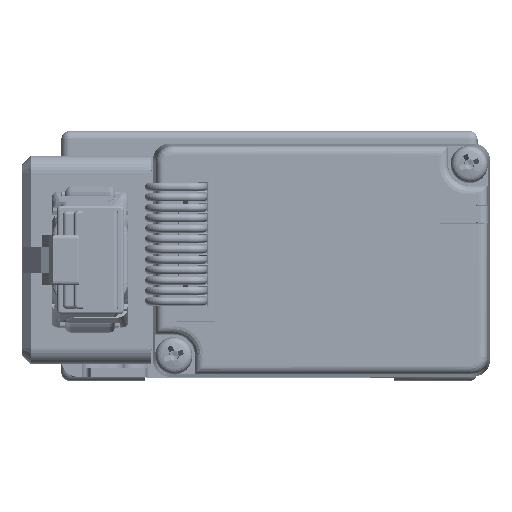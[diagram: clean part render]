
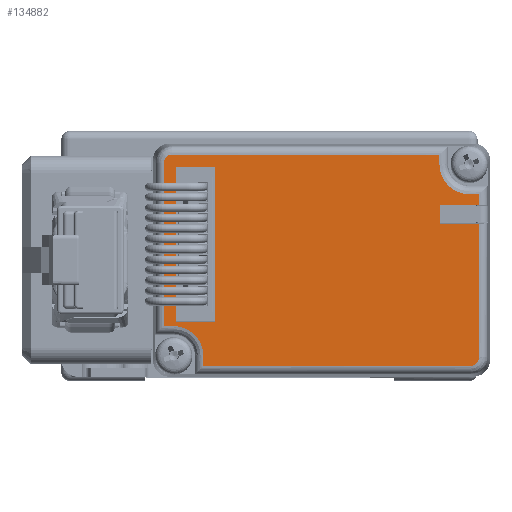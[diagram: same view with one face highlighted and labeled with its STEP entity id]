
A CAD part, front view. The second image highlights one B-rep face of the part: STEP entity #134882.
In plain terms, the highlighted planar face has unit normal (0, -1, 0) as drawn and (1, 0, 0) by its records, which use the part's own axes.
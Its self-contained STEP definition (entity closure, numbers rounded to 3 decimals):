
#1083=(
BOUNDED_CURVE()
B_SPLINE_CURVE(3,(#261114,#261115,#261116,#261117),.UNSPECIFIED.,.F.,.F.)
B_SPLINE_CURVE_WITH_KNOTS((4,4),(2.357,3.927),
 .UNSPECIFIED.)
CURVE()
GEOMETRIC_REPRESENTATION_ITEM()
RATIONAL_B_SPLINE_CURVE((1.,0.805,0.805,1.))
REPRESENTATION_ITEM('')
);
#1084=(
BOUNDED_CURVE()
B_SPLINE_CURVE(3,(#261223,#261224,#261225,#261226),.UNSPECIFIED.,.F.,.F.)
B_SPLINE_CURVE_WITH_KNOTS((4,4),(2.357,3.927),
 .UNSPECIFIED.)
CURVE()
GEOMETRIC_REPRESENTATION_ITEM()
RATIONAL_B_SPLINE_CURVE((1.,0.805,0.805,1.))
REPRESENTATION_ITEM('')
);
#3385=CIRCLE('',#174513,1.);
#3390=CIRCLE('',#174524,1.);
#3398=CIRCLE('',#174588,1.);
#28418=ORIENTED_EDGE('',*,*,#56889,.F.);
#28419=ORIENTED_EDGE('',*,*,#56886,.F.);
#28420=ORIENTED_EDGE('',*,*,#56883,.F.);
#28421=ORIENTED_EDGE('',*,*,#56880,.F.);
#28422=ORIENTED_EDGE('',*,*,#56738,.T.);
#28423=ORIENTED_EDGE('',*,*,#56735,.T.);
#28424=ORIENTED_EDGE('',*,*,#56867,.F.);
#28425=ORIENTED_EDGE('',*,*,#56877,.F.);
#28426=ORIENTED_EDGE('',*,*,#56873,.F.);
#28427=ORIENTED_EDGE('',*,*,#56772,.T.);
#28428=ORIENTED_EDGE('',*,*,#56769,.T.);
#28429=ORIENTED_EDGE('',*,*,#56766,.T.);
#28430=ORIENTED_EDGE('',*,*,#56763,.T.);
#28431=ORIENTED_EDGE('',*,*,#56760,.T.);
#28432=ORIENTED_EDGE('',*,*,#56936,.T.);
#28433=ORIENTED_EDGE('',*,*,#56756,.T.);
#28434=ORIENTED_EDGE('',*,*,#56753,.T.);
#28435=ORIENTED_EDGE('',*,*,#56750,.T.);
#28436=ORIENTED_EDGE('',*,*,#56747,.T.);
#28437=ORIENTED_EDGE('',*,*,#56744,.T.);
#28438=ORIENTED_EDGE('',*,*,#56741,.T.);
#56735=EDGE_CURVE('',#72775,#72778,#87549,.T.);
#56738=EDGE_CURVE('',#72779,#72775,#3385,.T.);
#56741=EDGE_CURVE('',#72781,#72779,#87551,.T.);
#56744=EDGE_CURVE('',#72783,#72781,#87553,.T.);
#56747=EDGE_CURVE('',#72785,#72783,#1083,.T.);
#56750=EDGE_CURVE('',#72787,#72785,#87555,.T.);
#56753=EDGE_CURVE('',#72789,#72787,#87557,.T.);
#56756=EDGE_CURVE('',#72792,#72789,#3390,.T.);
#56760=EDGE_CURVE('',#72793,#72796,#87559,.T.);
#56763=EDGE_CURVE('',#72797,#72793,#87561,.T.);
#56766=EDGE_CURVE('',#72799,#72797,#1084,.T.);
#56769=EDGE_CURVE('',#72801,#72799,#87563,.T.);
#56772=EDGE_CURVE('',#72804,#72801,#87565,.T.);
#56867=EDGE_CURVE('',#72879,#72778,#87637,.T.);
#56873=EDGE_CURVE('',#72804,#72882,#87643,.T.);
#56877=EDGE_CURVE('',#72882,#72879,#87647,.T.);
#56880=EDGE_CURVE('',#72886,#72887,#87650,.T.);
#56883=EDGE_CURVE('',#72887,#72889,#87653,.T.);
#56886=EDGE_CURVE('',#72889,#72891,#87656,.T.);
#56889=EDGE_CURVE('',#72891,#72886,#87659,.T.);
#56936=EDGE_CURVE('',#72796,#72792,#3398,.T.);
#72775=VERTEX_POINT('',#261002);
#72778=VERTEX_POINT('',#261010);
#72779=VERTEX_POINT('',#261049);
#72781=VERTEX_POINT('',#261058);
#72783=VERTEX_POINT('',#261064);
#72785=VERTEX_POINT('',#261105);
#72787=VERTEX_POINT('',#261120);
#72789=VERTEX_POINT('',#261126);
#72792=VERTEX_POINT('',#261156);
#72793=VERTEX_POINT('',#261164);
#72796=VERTEX_POINT('',#261169);
#72797=VERTEX_POINT('',#261173);
#72799=VERTEX_POINT('',#261214);
#72801=VERTEX_POINT('',#261229);
#72804=VERTEX_POINT('',#261239);
#72879=VERTEX_POINT('',#261503);
#72882=VERTEX_POINT('',#261513);
#72886=VERTEX_POINT('',#261525);
#72887=VERTEX_POINT('',#261527);
#72889=VERTEX_POINT('',#261533);
#72891=VERTEX_POINT('',#261539);
#87549=LINE('',#261011,#103251);
#87551=LINE('',#261061,#103253);
#87553=LINE('',#261067,#103255);
#87555=LINE('',#261123,#103257);
#87557=LINE('',#261129,#103259);
#87559=LINE('',#261170,#103261);
#87561=LINE('',#261176,#103263);
#87563=LINE('',#261232,#103265);
#87565=LINE('',#261241,#103267);
#87637=LINE('',#261502,#103339);
#87643=LINE('',#261512,#103345);
#87647=LINE('',#261520,#103349);
#87650=LINE('',#261526,#103352);
#87653=LINE('',#261532,#103355);
#87656=LINE('',#261538,#103358);
#87659=LINE('',#261544,#103361);
#103251=VECTOR('',#197784,1000.);
#103253=VECTOR('',#197794,1000.);
#103255=VECTOR('',#197800,1000.);
#103257=VECTOR('',#197808,1000.);
#103259=VECTOR('',#197814,1000.);
#103261=VECTOR('',#197826,1000.);
#103263=VECTOR('',#197832,1000.);
#103265=VECTOR('',#197840,1000.);
#103267=VECTOR('',#197844,1000.);
#103339=VECTOR('',#197978,1000.);
#103345=VECTOR('',#197986,1000.);
#103349=VECTOR('',#197992,1000.);
#103352=VECTOR('',#197997,1000.);
#103355=VECTOR('',#198002,1000.);
#103358=VECTOR('',#198007,1000.);
#103361=VECTOR('',#198012,1000.);
#114253=EDGE_LOOP('',(#28418,#28419,#28420,#28421));
#114254=EDGE_LOOP('',(#28422,#28423,#28424,#28425,#28426,#28427,#28428,
#28429,#28430,#28431,#28432,#28433,#28434,#28435,#28436,#28437,#28438));
#122109=FACE_BOUND('',#114253,.T.);
#122110=FACE_BOUND('',#114254,.T.);
#128733=PLANE('',#174587);
#134882=ADVANCED_FACE('',(#122109,#122110),#128733,.T.);
#174513=AXIS2_PLACEMENT_3D('',#261055,#197787,#197788);
#174524=AXIS2_PLACEMENT_3D('',#261161,#197817,#197818);
#174587=AXIS2_PLACEMENT_3D('',#261626,#198089,#198090);
#174588=AXIS2_PLACEMENT_3D('',#261627,#198091,#198092);
#197784=DIRECTION('',(0.,0.,1.));
#197787=DIRECTION('',(1.,0.,0.));
#197788=DIRECTION('',(0.,0.,-1.));
#197794=DIRECTION('',(0.,1.,0.));
#197800=DIRECTION('',(0.,0.,-1.));
#197808=DIRECTION('',(0.,1.,0.));
#197814=DIRECTION('',(0.,0.,-1.));
#197817=DIRECTION('',(1.,0.,0.));
#197818=DIRECTION('',(0.,-0.707,0.707));
#197826=DIRECTION('',(0.,-1.,0.));
#197832=DIRECTION('',(0.,0.,1.));
#197840=DIRECTION('',(0.,-1.,0.));
#197844=DIRECTION('',(0.,0.,1.));
#197978=DIRECTION('',(0.,1.,0.));
#197986=DIRECTION('',(0.,-1.,0.));
#197992=DIRECTION('',(0.,0.,-1.));
#197997=DIRECTION('',(0.,0.,-1.));
#198002=DIRECTION('',(0.,1.,0.));
#198007=DIRECTION('',(0.,0.,1.));
#198012=DIRECTION('',(0.,-1.,0.));
#198089=DIRECTION('',(1.,0.,0.));
#198090=DIRECTION('',(0.,0.,-1.));
#198091=DIRECTION('',(1.,0.,0.));
#198092=DIRECTION('',(0.,0.,1.));
#261002=CARTESIAN_POINT('',(13.,39.185,-25.686));
#261010=CARTESIAN_POINT('',(13.,39.185,-9.6));
#261011=CARTESIAN_POINT('',(13.,39.185,-9.6));
#261049=CARTESIAN_POINT('',(13.,38.186,-26.685));
#261055=CARTESIAN_POINT('',(13.,38.186,-25.686));
#261058=CARTESIAN_POINT('',(13.,6.074,-26.685));
#261061=CARTESIAN_POINT('',(13.,38.16,-26.685));
#261064=CARTESIAN_POINT('',(13.,6.074,-25.525));
#261067=CARTESIAN_POINT('',(13.,6.074,-27.66));
#261105=CARTESIAN_POINT('',(13.,2.475,-21.926));
#261114=CARTESIAN_POINT('',(13.,2.475,-21.926));
#261115=CARTESIAN_POINT('',(13.,4.584,-21.926));
#261116=CARTESIAN_POINT('',(13.,6.074,-23.416));
#261117=CARTESIAN_POINT('',(13.,6.074,-25.525));
#261120=CARTESIAN_POINT('',(13.,1.315,-21.926));
#261123=CARTESIAN_POINT('',(13.,2.501,-21.926));
#261126=CARTESIAN_POINT('',(13.,1.315,-2.314));
#261129=CARTESIAN_POINT('',(13.,1.315,-22.9));
#261156=CARTESIAN_POINT('',(13.,1.607,-1.607));
#261161=CARTESIAN_POINT('',(13.,2.314,-2.314));
#261164=CARTESIAN_POINT('',(13.,34.426,-1.315));
#261169=CARTESIAN_POINT('',(13.,2.314,-1.315));
#261170=CARTESIAN_POINT('',(13.,0.,-1.315));
#261173=CARTESIAN_POINT('',(13.,34.426,-2.475));
#261176=CARTESIAN_POINT('',(13.,34.426,-0.34));
#261214=CARTESIAN_POINT('',(13.,38.025,-6.074));
#261223=CARTESIAN_POINT('',(13.,38.025,-6.074));
#261224=CARTESIAN_POINT('',(13.,35.916,-6.074));
#261225=CARTESIAN_POINT('',(13.,34.426,-4.584));
#261226=CARTESIAN_POINT('',(13.,34.426,-2.475));
#261229=CARTESIAN_POINT('',(13.,39.185,-6.074));
#261232=CARTESIAN_POINT('',(13.,37.999,-6.074));
#261239=CARTESIAN_POINT('',(13.,39.185,-7.4));
#261241=CARTESIAN_POINT('',(13.,39.185,-5.1));
#261502=CARTESIAN_POINT('',(13.,40.5,-9.6));
#261503=CARTESIAN_POINT('',(13.,34.5,-9.6));
#261512=CARTESIAN_POINT('',(13.,40.5,-7.4));
#261513=CARTESIAN_POINT('',(13.,34.5,-7.4));
#261520=CARTESIAN_POINT('',(13.,34.5,-7.4));
#261525=CARTESIAN_POINT('',(13.,2.8,-2.8));
#261526=CARTESIAN_POINT('',(13.,2.8,-2.8));
#261527=CARTESIAN_POINT('',(13.,2.8,-21.4));
#261532=CARTESIAN_POINT('',(13.,7.5,-21.4));
#261533=CARTESIAN_POINT('',(13.,7.5,-21.4));
#261538=CARTESIAN_POINT('',(13.,7.5,-2.8));
#261539=CARTESIAN_POINT('',(13.,7.5,-2.8));
#261544=CARTESIAN_POINT('',(13.,7.5,-2.8));
#261626=CARTESIAN_POINT('',(13.,0.,0.));
#261627=CARTESIAN_POINT('',(13.,2.314,-2.314));
